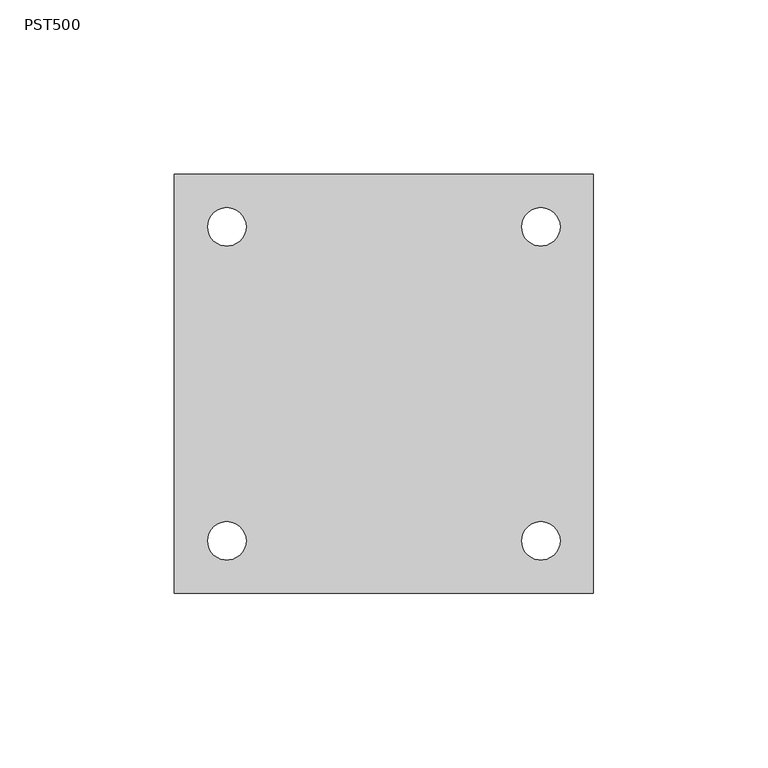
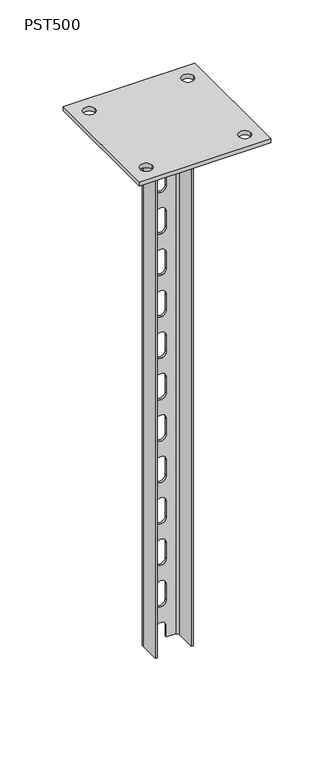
"""IFC4 building model written with IfcOpenShell, lengths in millimetres: proxy geometry, КМ Профиль_Стойка потолочная облегчённая PST : PST500."""

from ifc_helpers import new_model, si_unit, point, frame, frame_2d, origin, place, context, project, spatial, polyline, circle_curve, trimmed, segment, composite_curve, outline, extrude, source, transform, mapped, element, save
from ifc_brep_helpers import plane_surface, cylinder_surface, revolved_surface, advanced_brep


def pst500_9f6673d8(model_context):
    return source(origin(), model_context, "Body", "SolidModel", [
        advanced_brep(
        [(17.5, -11.5, -4.0), (17.5, 7.5, -4.0), (13.5, 11.5, -4.0), (-13.5, 11.5, -4.0), (-17.5, 7.5, -4.0), (-17.5, -11.5, -4.0), (-15.5, -11.5, -4.0), (-15.5, 7.5, -4.0), (-13.5, 9.5, -4.0), (13.5, 9.5, -4.0), (15.5, 7.5, -4.0), (15.5, -11.5, -4.0), (17.5, 7.5, -504.0), (17.5, -11.5, -504.0), (15.5, -11.5, -504.0), (15.5, 7.5, -504.0), (13.5, 9.5, -504.0), (5.0, 9.5, -504.0), (5.0, 11.5, -504.0), (13.5, 11.5, -504.0), (-17.5, 7.5, -504.0), (-13.5, 11.5, -504.0), (-5.0, 11.5, -504.0), (-5.0, 9.5, -504.0), (-13.5, 9.5, -504.0), (-15.5, 7.5, -504.0), (-15.5, -11.5, -504.0), (-17.5, -11.5, -504.0), (5.0, 11.5, -493.0), (-5.0, 11.5, -493.0), (-5.0, 11.5, -53.0), (-5.0, 11.5, -68.0), (5.0, 11.5, -68.0), (5.0, 11.5, -53.0), (-5.0, 11.5, -93.0), (-5.0, 11.5, -108.0), (5.0, 11.5, -108.0), (5.0, 11.5, -93.0), (-5.0, 11.5, -133.0), (-5.0, 11.5, -148.0), (5.0, 11.5, -148.0), (5.0, 11.5, -133.0), (-5.0, 11.5, -173.0), (-5.0, 11.5, -188.0), (5.0, 11.5, -188.0), (5.0, 11.5, -173.0), (-5.0, 11.5, -213.0), (-5.0, 11.5, -228.0), (5.0, 11.5, -228.0), (5.0, 11.5, -213.0), (-5.0, 11.5, -13.0), (-5.0, 11.5, -28.0), (5.0, 11.5, -28.0), (5.0, 11.5, -13.0), (-5.0, 11.5, -253.0), (-5.0, 11.5, -268.0), (5.0, 11.5, -268.0), (5.0, 11.5, -253.0), (-5.0, 11.5, -293.0), (-5.0, 11.5, -308.0), (5.0, 11.5, -308.0), (5.0, 11.5, -293.0), (-5.0, 11.5, -333.0), (-5.0, 11.5, -348.0), (5.0, 11.5, -348.0), (5.0, 11.5, -333.0), (-5.0, 11.5, -373.0), (-5.0, 11.5, -388.0), (5.0, 11.5, -388.0), (5.0, 11.5, -373.0), (-5.0, 11.5, -413.0), (-5.0, 11.5, -428.0), (5.0, 11.5, -428.0), (5.0, 11.5, -413.0), (-5.0, 11.5, -453.0), (-5.0, 11.5, -468.0), (5.0, 11.5, -468.0), (5.0, 11.5, -453.0), (-5.0, 9.5, -493.0), (5.0, 9.5, -493.0), (-5.0, 9.5, -68.0), (-5.0, 9.5, -53.0), (5.0, 9.5, -53.0), (5.0, 9.5, -68.0), (-5.0, 9.5, -108.0), (-5.0, 9.5, -93.0), (5.0, 9.5, -93.0), (5.0, 9.5, -108.0), (-5.0, 9.5, -148.0), (-5.0, 9.5, -133.0), (5.0, 9.5, -133.0), (5.0, 9.5, -148.0), (-5.0, 9.5, -188.0), (-5.0, 9.5, -173.0), (5.0, 9.5, -173.0), (5.0, 9.5, -188.0), (-5.0, 9.5, -228.0), (-5.0, 9.5, -213.0), (5.0, 9.5, -213.0), (5.0, 9.5, -228.0), (-5.0, 9.5, -28.0), (-5.0, 9.5, -13.0), (5.0, 9.5, -13.0), (5.0, 9.5, -28.0), (-5.0, 9.5, -268.0), (-5.0, 9.5, -253.0), (5.0, 9.5, -253.0), (5.0, 9.5, -268.0), (-5.0, 9.5, -308.0), (-5.0, 9.5, -293.0), (5.0, 9.5, -293.0), (5.0, 9.5, -308.0), (-5.0, 9.5, -348.0), (-5.0, 9.5, -333.0), (5.0, 9.5, -333.0), (5.0, 9.5, -348.0), (-5.0, 9.5, -388.0), (-5.0, 9.5, -373.0), (5.0, 9.5, -373.0), (5.0, 9.5, -388.0), (-5.0, 9.5, -428.0), (-5.0, 9.5, -413.0), (5.0, 9.5, -413.0), (5.0, 9.5, -428.0), (-5.0, 9.5, -468.0), (-5.0, 9.5, -453.0), (5.0, 9.5, -453.0), (5.0, 9.5, -468.0)],
        [
            (0, 1),
            (1, 2, circle_curve(frame((13.5, 7.5, -4.0), z_axis=(0.0, 0.0, 1.0), x_axis=(1.0, 0.0, 0.0)), 4.0)),
            (2, 3),
            (3, 4, circle_curve(frame((-13.5, 7.5, -4.0), z_axis=(0.0, 0.0, 1.0), x_axis=(1.0, 0.0, 0.0)), 4.0)),
            (4, 5),
            (5, 6),
            (6, 7),
            (7, 8, circle_curve(frame((-13.5, 7.5, -4.0), z_axis=(0.0, 0.0, -1.0), x_axis=(1.0, 0.0, 0.0)), 2.0)),
            (8, 9),
            (9, 10, circle_curve(frame((13.5, 7.5, -4.0), z_axis=(0.0, 0.0, -1.0), x_axis=(1.0, 0.0, 0.0)), 2.0)),
            (10, 11),
            (11, 0),
            (12, 13),
            (13, 14),
            (14, 15),
            (15, 16, circle_curve(frame((13.5, 7.5, -504.0), z_axis=(0.0, 0.0, 1.0), x_axis=(1.0, 0.0, 0.0)), 2.0)),
            (16, 17),
            (17, 18),
            (18, 19),
            (19, 12, circle_curve(frame((13.5, 7.5, -504.0), z_axis=(0.0, 0.0, -1.0), x_axis=(1.0, 0.0, 0.0)), 4.0)),
            (20, 21, circle_curve(frame((-13.5, 7.5, -504.0), z_axis=(0.0, 0.0, -1.0), x_axis=(1.0, 0.0, 0.0)), 4.0)),
            (21, 22),
            (22, 23),
            (23, 24),
            (24, 25, circle_curve(frame((-13.5, 7.5, -504.0), z_axis=(0.0, 0.0, 1.0), x_axis=(1.0, 0.0, 0.0)), 2.0)),
            (25, 26),
            (26, 27),
            (27, 20),
            (0, 13),
            (12, 1),
            (19, 2),
            (18, 28),
            (28, 29, circle_curve(frame((0.0, 11.5, -493.0), z_axis=(0.0, -1.0, 0.0), x_axis=(0.0, 0.0, -1.0)), 5.0)),
            (29, 22),
            (21, 3),
            (30, 31),
            (31, 32, circle_curve(frame((0.0, 11.5, -68.0), z_axis=(0.0, -1.0, 0.0), x_axis=(0.0, 0.0, -1.0)), 5.0)),
            (32, 33),
            (33, 30, circle_curve(frame((0.0, 11.5, -53.0), z_axis=(0.0, -1.0, 0.0), x_axis=(0.0, 0.0, -1.0)), 5.0)),
            (34, 35),
            (35, 36, circle_curve(frame((0.0, 11.5, -108.0), z_axis=(0.0, -1.0, 0.0), x_axis=(0.0, 0.0, -1.0)), 5.0)),
            (36, 37),
            (37, 34, circle_curve(frame((0.0, 11.5, -93.0), z_axis=(0.0, -1.0, 0.0), x_axis=(0.0, 0.0, -1.0)), 5.0)),
            (38, 39),
            (39, 40, circle_curve(frame((0.0, 11.5, -148.0), z_axis=(0.0, -1.0, 0.0), x_axis=(0.0, 0.0, -1.0)), 5.0)),
            (40, 41),
            (41, 38, circle_curve(frame((0.0, 11.5, -133.0), z_axis=(0.0, -1.0, 0.0), x_axis=(0.0, 0.0, -1.0)), 5.0)),
            (42, 43),
            (43, 44, circle_curve(frame((0.0, 11.5, -188.0), z_axis=(0.0, -1.0, 0.0), x_axis=(0.0, 0.0, -1.0)), 5.0)),
            (44, 45),
            (45, 42, circle_curve(frame((0.0, 11.5, -173.0), z_axis=(0.0, -1.0, 0.0), x_axis=(0.0, 0.0, -1.0)), 5.0)),
            (46, 47),
            (47, 48, circle_curve(frame((0.0, 11.5, -228.0), z_axis=(0.0, -1.0, 0.0), x_axis=(0.0, 0.0, -1.0)), 5.0)),
            (48, 49),
            (49, 46, circle_curve(frame((0.0, 11.5, -213.0), z_axis=(0.0, -1.0, 0.0), x_axis=(0.0, 0.0, -1.0)), 5.0)),
            (50, 51),
            (51, 52, circle_curve(frame((0.0, 11.5, -28.0), z_axis=(0.0, -1.0, 0.0), x_axis=(0.0, 0.0, -1.0)), 5.0)),
            (52, 53),
            (53, 50, circle_curve(frame((0.0, 11.5, -13.0), z_axis=(0.0, -1.0, 0.0), x_axis=(0.0, 0.0, -1.0)), 5.0)),
            (54, 55),
            (55, 56, circle_curve(frame((0.0, 11.5, -268.0), z_axis=(0.0, -1.0, 0.0), x_axis=(0.0, 0.0, -1.0)), 5.0)),
            (56, 57),
            (57, 54, circle_curve(frame((0.0, 11.5, -253.0), z_axis=(0.0, -1.0, 0.0), x_axis=(0.0, 0.0, -1.0)), 5.0)),
            (58, 59),
            (59, 60, circle_curve(frame((0.0, 11.5, -308.0), z_axis=(0.0, -1.0, 0.0), x_axis=(0.0, 0.0, -1.0)), 5.0)),
            (60, 61),
            (61, 58, circle_curve(frame((0.0, 11.5, -293.0), z_axis=(0.0, -1.0, 0.0), x_axis=(0.0, 0.0, -1.0)), 5.0)),
            (62, 63),
            (63, 64, circle_curve(frame((0.0, 11.5, -348.0), z_axis=(0.0, -1.0, 0.0), x_axis=(0.0, 0.0, -1.0)), 5.0)),
            (64, 65),
            (65, 62, circle_curve(frame((0.0, 11.5, -333.0), z_axis=(0.0, -1.0, 0.0), x_axis=(0.0, 0.0, -1.0)), 5.0)),
            (66, 67),
            (67, 68, circle_curve(frame((0.0, 11.5, -388.0), z_axis=(0.0, -1.0, 0.0), x_axis=(0.0, 0.0, -1.0)), 5.0)),
            (68, 69),
            (69, 66, circle_curve(frame((0.0, 11.5, -373.0), z_axis=(0.0, -1.0, 0.0), x_axis=(0.0, 0.0, -1.0)), 5.0)),
            (70, 71),
            (71, 72, circle_curve(frame((0.0, 11.5, -428.0), z_axis=(0.0, -1.0, 0.0), x_axis=(0.0, 0.0, -1.0)), 5.0)),
            (72, 73),
            (73, 70, circle_curve(frame((0.0, 11.5, -413.0), z_axis=(0.0, -1.0, 0.0), x_axis=(0.0, 0.0, -1.0)), 5.0)),
            (74, 75),
            (75, 76, circle_curve(frame((0.0, 11.5, -468.0), z_axis=(0.0, -1.0, 0.0), x_axis=(0.0, 0.0, -1.0)), 5.0)),
            (76, 77),
            (77, 74, circle_curve(frame((0.0, 11.5, -453.0), z_axis=(0.0, -1.0, 0.0), x_axis=(0.0, 0.0, -1.0)), 5.0)),
            (20, 4),
            (27, 5),
            (26, 6),
            (25, 7),
            (24, 8),
            (23, 78),
            (78, 79, circle_curve(frame((0.0, 9.5, -493.0), z_axis=(0.0, 1.0, 0.0), x_axis=(0.0, 0.0, -1.0)), 5.0)),
            (79, 17),
            (16, 9),
            (80, 81),
            (81, 82, circle_curve(frame((0.0, 9.5, -53.0), z_axis=(0.0, 1.0, 0.0), x_axis=(0.0, 0.0, -1.0)), 5.0)),
            (82, 83),
            (83, 80, circle_curve(frame((0.0, 9.5, -68.0), z_axis=(0.0, 1.0, 0.0), x_axis=(0.0, 0.0, -1.0)), 5.0)),
            (84, 85),
            (85, 86, circle_curve(frame((0.0, 9.5, -93.0), z_axis=(0.0, 1.0, 0.0), x_axis=(0.0, 0.0, -1.0)), 5.0)),
            (86, 87),
            (87, 84, circle_curve(frame((0.0, 9.5, -108.0), z_axis=(0.0, 1.0, 0.0), x_axis=(0.0, 0.0, -1.0)), 5.0)),
            (88, 89),
            (89, 90, circle_curve(frame((0.0, 9.5, -133.0), z_axis=(0.0, 1.0, 0.0), x_axis=(0.0, 0.0, -1.0)), 5.0)),
            (90, 91),
            (91, 88, circle_curve(frame((0.0, 9.5, -148.0), z_axis=(0.0, 1.0, 0.0), x_axis=(0.0, 0.0, -1.0)), 5.0)),
            (92, 93),
            (93, 94, circle_curve(frame((0.0, 9.5, -173.0), z_axis=(0.0, 1.0, 0.0), x_axis=(0.0, 0.0, -1.0)), 5.0)),
            (94, 95),
            (95, 92, circle_curve(frame((0.0, 9.5, -188.0), z_axis=(0.0, 1.0, 0.0), x_axis=(0.0, 0.0, -1.0)), 5.0)),
            (96, 97),
            (97, 98, circle_curve(frame((0.0, 9.5, -213.0), z_axis=(0.0, 1.0, 0.0), x_axis=(0.0, 0.0, -1.0)), 5.0)),
            (98, 99),
            (99, 96, circle_curve(frame((0.0, 9.5, -228.0), z_axis=(0.0, 1.0, 0.0), x_axis=(0.0, 0.0, -1.0)), 5.0)),
            (100, 101),
            (101, 102, circle_curve(frame((0.0, 9.5, -13.0), z_axis=(0.0, 1.0, 0.0), x_axis=(0.0, 0.0, -1.0)), 5.0)),
            (102, 103),
            (103, 100, circle_curve(frame((0.0, 9.5, -28.0), z_axis=(0.0, 1.0, 0.0), x_axis=(0.0, 0.0, -1.0)), 5.0)),
            (104, 105),
            (105, 106, circle_curve(frame((0.0, 9.5, -253.0), z_axis=(0.0, 1.0, 0.0), x_axis=(0.0, 0.0, -1.0)), 5.0)),
            (106, 107),
            (107, 104, circle_curve(frame((0.0, 9.5, -268.0), z_axis=(0.0, 1.0, 0.0), x_axis=(0.0, 0.0, -1.0)), 5.0)),
            (108, 109),
            (109, 110, circle_curve(frame((0.0, 9.5, -293.0), z_axis=(0.0, 1.0, 0.0), x_axis=(0.0, 0.0, -1.0)), 5.0)),
            (110, 111),
            (111, 108, circle_curve(frame((0.0, 9.5, -308.0), z_axis=(0.0, 1.0, 0.0), x_axis=(0.0, 0.0, -1.0)), 5.0)),
            (112, 113),
            (113, 114, circle_curve(frame((0.0, 9.5, -333.0), z_axis=(0.0, 1.0, 0.0), x_axis=(0.0, 0.0, -1.0)), 5.0)),
            (114, 115),
            (115, 112, circle_curve(frame((0.0, 9.5, -348.0), z_axis=(0.0, 1.0, 0.0), x_axis=(0.0, 0.0, -1.0)), 5.0)),
            (116, 117),
            (117, 118, circle_curve(frame((0.0, 9.5, -373.0), z_axis=(0.0, 1.0, 0.0), x_axis=(0.0, 0.0, -1.0)), 5.0)),
            (118, 119),
            (119, 116, circle_curve(frame((0.0, 9.5, -388.0), z_axis=(0.0, 1.0, 0.0), x_axis=(0.0, 0.0, -1.0)), 5.0)),
            (120, 121),
            (121, 122, circle_curve(frame((0.0, 9.5, -413.0), z_axis=(0.0, 1.0, 0.0), x_axis=(0.0, 0.0, -1.0)), 5.0)),
            (122, 123),
            (123, 120, circle_curve(frame((0.0, 9.5, -428.0), z_axis=(0.0, 1.0, 0.0), x_axis=(0.0, 0.0, -1.0)), 5.0)),
            (124, 125),
            (125, 126, circle_curve(frame((0.0, 9.5, -453.0), z_axis=(0.0, 1.0, 0.0), x_axis=(0.0, 0.0, -1.0)), 5.0)),
            (126, 127),
            (127, 124, circle_curve(frame((0.0, 9.5, -468.0), z_axis=(0.0, 1.0, 0.0), x_axis=(0.0, 0.0, -1.0)), 5.0)),
            (15, 10),
            (14, 11),
            (30, 81),
            (80, 31),
            (33, 82),
            (32, 83),
            (34, 85),
            (84, 35),
            (37, 86),
            (36, 87),
            (38, 89),
            (88, 39),
            (41, 90),
            (40, 91),
            (42, 93),
            (92, 43),
            (45, 94),
            (44, 95),
            (46, 97),
            (96, 47),
            (49, 98),
            (48, 99),
            (50, 101),
            (100, 51),
            (53, 102),
            (52, 103),
            (54, 105),
            (104, 55),
            (57, 106),
            (56, 107),
            (58, 109),
            (108, 59),
            (61, 110),
            (60, 111),
            (62, 113),
            (112, 63),
            (65, 114),
            (64, 115),
            (66, 117),
            (116, 67),
            (69, 118),
            (68, 119),
            (70, 121),
            (120, 71),
            (73, 122),
            (72, 123),
            (74, 125),
            (124, 75),
            (77, 126),
            (76, 127),
            (29, 78),
            (28, 79),
        ],
        [
            plane_surface(frame((17.5, 70.8587358, -4.0), z_axis=(0.0, 0.0, 1.0), x_axis=(0.0, 1.0, 0.0))),
            plane_surface(frame((17.5, 70.8587358, -504.0), z_axis=(0.0, 0.0, -1.0), x_axis=(0.0, -1.0, 0.0))),
            plane_surface(frame((17.5, -11.5, -4.0), z_axis=(1.0, 0.0, 0.0), x_axis=(0.0, 0.0, -1.0))),
            cylinder_surface(frame((13.5, 7.5, -504.0), z_axis=(0.0, 0.0, 1.0), x_axis=(1.0, 0.0, 0.0)), 4.0),
            plane_surface(frame((13.5, 11.5, -4.0), z_axis=(0.0, 1.0, 0.0), x_axis=(0.0, 0.0, -1.0))),
            cylinder_surface(frame((-13.5, 7.5, -504.0), z_axis=(0.0, 0.0, 1.0), x_axis=(1.0, 0.0, 0.0)), 4.0),
            plane_surface(frame((-17.5, 7.5, -4.0), z_axis=(-1.0, 0.0, 0.0), x_axis=(0.0, 0.0, -1.0))),
            plane_surface(frame((-17.5, -11.5, -4.0), z_axis=(0.0, -1.0, 0.0), x_axis=(0.0, 0.0, -1.0))),
            plane_surface(frame((-15.5, -11.5, -4.0), z_axis=(1.0, 0.0, 0.0), x_axis=(0.0, 0.0, -1.0))),
            revolved_surface(polyline([(-11.5, 7.5, -504.0), (-11.5, 7.5, -4.0)]), (-13.5, 7.5, -504.0), (0.0, 0.0, -1.0)),
            plane_surface(frame((-13.5, 9.5, -4.0), z_axis=(0.0, -1.0, 0.0), x_axis=(0.0, 0.0, -1.0))),
            revolved_surface(polyline([(15.5, 7.5, -504.0), (15.5, 7.5, -4.0)]), (13.5, 7.5, -504.0), (0.0, 0.0, -1.0)),
            plane_surface(frame((15.5, 7.5, -4.0), z_axis=(-1.0, 0.0, 0.0), x_axis=(0.0, 0.0, -1.0))),
            plane_surface(frame((15.5, -11.5, -4.0), z_axis=(0.0, -1.0, 0.0), x_axis=(0.0, 0.0, -1.0))),
            plane_surface(frame((-5.0, 11.5, -68.0), z_axis=(1.0, 0.0, 0.0), x_axis=(0.0, -1.0, 0.0))),
            revolved_surface(polyline([(0.0, 11.5, -58.0), (0.0, 9.5, -58.0)]), (0.0, 9.5, -53.0), (0.0, 1.0, 0.0)),
            plane_surface(frame((5.0, 11.5, -53.0), z_axis=(-1.0, 0.0, 0.0), x_axis=(0.0, -1.0, 0.0))),
            revolved_surface(polyline([(0.0, 11.5, -73.0), (0.0, 9.5, -73.0)]), (0.0, 9.5, -68.0), (0.0, 1.0, 0.0)),
            plane_surface(frame((-5.0, 11.5, -108.0), z_axis=(1.0, 0.0, 0.0), x_axis=(0.0, -1.0, 0.0))),
            revolved_surface(polyline([(0.0, 11.5, -98.0), (0.0, 9.5, -98.0)]), (0.0, 9.5, -93.0), (0.0, 1.0, 0.0)),
            plane_surface(frame((5.0, 11.5, -93.0), z_axis=(-1.0, 0.0, 0.0), x_axis=(0.0, -1.0, 0.0))),
            revolved_surface(polyline([(0.0, 11.5, -113.0), (0.0, 9.5, -113.0)]), (0.0, 9.5, -108.0), (0.0, 1.0, 0.0)),
            plane_surface(frame((-5.0, 11.5, -148.0), z_axis=(1.0, 0.0, 0.0), x_axis=(0.0, -1.0, 0.0))),
            revolved_surface(polyline([(0.0, 11.5, -138.0), (0.0, 9.5, -138.0)]), (0.0, 9.5, -133.0), (0.0, 1.0, 0.0)),
            plane_surface(frame((5.0, 11.5, -133.0), z_axis=(-1.0, 0.0, 0.0), x_axis=(0.0, -1.0, 0.0))),
            revolved_surface(polyline([(0.0, 11.5, -153.0), (0.0, 9.5, -153.0)]), (0.0, 9.5, -148.0), (0.0, 1.0, 0.0)),
            plane_surface(frame((-5.0, 11.5, -188.0), z_axis=(1.0, 0.0, 0.0), x_axis=(0.0, -1.0, 0.0))),
            revolved_surface(polyline([(0.0, 11.5, -178.0), (0.0, 9.5, -178.0)]), (0.0, 9.5, -173.0), (0.0, 1.0, 0.0)),
            plane_surface(frame((5.0, 11.5, -173.0), z_axis=(-1.0, 0.0, 0.0), x_axis=(0.0, -1.0, 0.0))),
            revolved_surface(polyline([(0.0, 11.5, -193.0), (0.0, 9.5, -193.0)]), (0.0, 9.5, -188.0), (0.0, 1.0, 0.0)),
            plane_surface(frame((-5.0, 11.5, -228.0), z_axis=(1.0, 0.0, 0.0), x_axis=(0.0, -1.0, 0.0))),
            revolved_surface(polyline([(0.0, 11.5, -218.0), (0.0, 9.5, -218.0)]), (0.0, 9.5, -213.0), (0.0, 1.0, 0.0)),
            plane_surface(frame((5.0, 11.5, -213.0), z_axis=(-1.0, 0.0, 0.0), x_axis=(0.0, -1.0, 0.0))),
            revolved_surface(polyline([(0.0, 11.5, -233.0), (0.0, 9.5, -233.0)]), (0.0, 9.5, -228.0), (0.0, 1.0, 0.0)),
            plane_surface(frame((-5.0, 11.5, -28.0), z_axis=(1.0, 0.0, 0.0), x_axis=(0.0, -1.0, 0.0))),
            revolved_surface(polyline([(0.0, 11.5, -18.0), (0.0, 9.5, -18.0)]), (0.0, 9.5, -13.0), (0.0, 1.0, 0.0)),
            plane_surface(frame((5.0, 11.5, -13.0), z_axis=(-1.0, 0.0, 0.0), x_axis=(0.0, -1.0, 0.0))),
            revolved_surface(polyline([(0.0, 11.5, -33.0), (0.0, 9.5, -33.0)]), (0.0, 9.5, -28.0), (0.0, 1.0, 0.0)),
            plane_surface(frame((-5.0, 11.5, -268.0), z_axis=(1.0, 0.0, 0.0), x_axis=(0.0, -1.0, 0.0))),
            revolved_surface(polyline([(0.0, 11.5, -258.0), (0.0, 9.5, -258.0)]), (0.0, 9.5, -253.0), (0.0, 1.0, 0.0)),
            plane_surface(frame((5.0, 11.5, -253.0), z_axis=(-1.0, 0.0, 0.0), x_axis=(0.0, -1.0, 0.0))),
            revolved_surface(polyline([(0.0, 11.5, -273.0), (0.0, 9.5, -273.0)]), (0.0, 9.5, -268.0), (0.0, 1.0, 0.0)),
            plane_surface(frame((-5.0, 11.5, -308.0), z_axis=(1.0, 0.0, 0.0), x_axis=(0.0, -1.0, 0.0))),
            revolved_surface(polyline([(0.0, 11.5, -298.0), (0.0, 9.5, -298.0)]), (0.0, 9.5, -293.0), (0.0, 1.0, 0.0)),
            plane_surface(frame((5.0, 11.5, -293.0), z_axis=(-1.0, 0.0, 0.0), x_axis=(0.0, -1.0, 0.0))),
            revolved_surface(polyline([(0.0, 11.5, -313.0), (0.0, 9.5, -313.0)]), (0.0, 9.5, -308.0), (0.0, 1.0, 0.0)),
            plane_surface(frame((-5.0, 11.5, -348.0), z_axis=(1.0, 0.0, 0.0), x_axis=(0.0, -1.0, 0.0))),
            revolved_surface(polyline([(0.0, 11.5, -338.0), (0.0, 9.5, -338.0)]), (0.0, 9.5, -333.0), (0.0, 1.0, 0.0)),
            plane_surface(frame((5.0, 11.5, -333.0), z_axis=(-1.0, 0.0, 0.0), x_axis=(0.0, -1.0, 0.0))),
            revolved_surface(polyline([(0.0, 11.5, -353.0), (0.0, 9.5, -353.0)]), (0.0, 9.5, -348.0), (0.0, 1.0, 0.0)),
            plane_surface(frame((-5.0, 11.5, -388.0), z_axis=(1.0, 0.0, 0.0), x_axis=(0.0, -1.0, 0.0))),
            revolved_surface(polyline([(0.0, 11.5, -378.0), (0.0, 9.5, -378.0)]), (0.0, 9.5, -373.0), (0.0, 1.0, 0.0)),
            plane_surface(frame((5.0, 11.5, -373.0), z_axis=(-1.0, 0.0, 0.0), x_axis=(0.0, -1.0, 0.0))),
            revolved_surface(polyline([(0.0, 11.5, -393.0), (0.0, 9.5, -393.0)]), (0.0, 9.5, -388.0), (0.0, 1.0, 0.0)),
            plane_surface(frame((-5.0, 11.5, -428.0), z_axis=(1.0, 0.0, 0.0), x_axis=(0.0, -1.0, 0.0))),
            revolved_surface(polyline([(0.0, 11.5, -418.0), (0.0, 9.5, -418.0)]), (0.0, 9.5, -413.0), (0.0, 1.0, 0.0)),
            plane_surface(frame((5.0, 11.5, -413.0), z_axis=(-1.0, 0.0, 0.0), x_axis=(0.0, -1.0, 0.0))),
            revolved_surface(polyline([(0.0, 11.5, -433.0), (0.0, 9.5, -433.0)]), (0.0, 9.5, -428.0), (0.0, 1.0, 0.0)),
            plane_surface(frame((-5.0, 11.5, -468.0), z_axis=(1.0, 0.0, 0.0), x_axis=(0.0, -1.0, 0.0))),
            revolved_surface(polyline([(0.0, 11.5, -458.0), (0.0, 9.5, -458.0)]), (0.0, 9.5, -453.0), (0.0, 1.0, 0.0)),
            plane_surface(frame((5.0, 11.5, -453.0), z_axis=(-1.0, 0.0, 0.0), x_axis=(0.0, -1.0, 0.0))),
            revolved_surface(polyline([(0.0, 11.5, -473.0), (0.0, 9.5, -473.0)]), (0.0, 9.5, -468.0), (0.0, 1.0, 0.0)),
            plane_surface(frame((-5.0, 11.5, -508.0), z_axis=(1.0, 0.0, 0.0), x_axis=(0.0, -1.0, 0.0))),
            revolved_surface(polyline([(0.0, 11.5, -498.0), (0.0, 9.5, -498.0)]), (0.0, 9.5, -493.0), (0.0, 1.0, 0.0)),
            plane_surface(frame((5.0, 11.5, -493.0), z_axis=(-1.0, 0.0, 0.0), x_axis=(0.0, -1.0, 0.0))),
        ],
        [
            (0, [[1, 2, 3, 4, 5, 6, 7, 8, 9, 10, 11, 12]]),
            (1, [[13, 14, 15, 16, 17, 18, 19, 20]]),
            (1, [[21, 22, 23, 24, 25, 26, 27, 28]]),
            (2, [[-1, 29, -13, 30]]),
            (3, [[-2, -30, -20, 31]]),
            (4, [[-3, -31, -19, 32, 33, 34, -22, 35], [36, 37, 38, 39], [40, 41, 42, 43], [44, 45, 46, 47], [48, 49, 50, 51], [52, 53, 54, 55], [56, 57, 58, 59], [60, 61, 62, 63], [64, 65, 66, 67], [68, 69, 70, 71], [72, 73, 74, 75], [76, 77, 78, 79], [80, 81, 82, 83]]),
            (5, [[-4, -35, -21, 84]]),
            (6, [[-5, -84, -28, 85]]),
            (7, [[-6, -85, -27, 86]]),
            (8, [[-7, -86, -26, 87]]),
            (9, [[-8, -87, -25, 88]]),
            (10, [[-9, -88, -24, 89, 90, 91, -17, 92], [93, 94, 95, 96], [97, 98, 99, 100], [101, 102, 103, 104], [105, 106, 107, 108], [109, 110, 111, 112], [113, 114, 115, 116], [117, 118, 119, 120], [121, 122, 123, 124], [125, 126, 127, 128], [129, 130, 131, 132], [133, 134, 135, 136], [137, 138, 139, 140]]),
            (11, [[-10, -92, -16, 141]]),
            (12, [[-11, -141, -15, 142]]),
            (13, [[-12, -142, -14, -29]]),
            (14, [[143, -93, 144, -36]]),
            (15, [[-143, -39, 145, -94]]),
            (16, [[-145, -38, 146, -95]]),
            (17, [[-144, -96, -146, -37]]),
            (18, [[147, -97, 148, -40]]),
            (19, [[-147, -43, 149, -98]]),
            (20, [[-149, -42, 150, -99]]),
            (21, [[-148, -100, -150, -41]]),
            (22, [[151, -101, 152, -44]]),
            (23, [[-151, -47, 153, -102]]),
            (24, [[-153, -46, 154, -103]]),
            (25, [[-152, -104, -154, -45]]),
            (26, [[155, -105, 156, -48]]),
            (27, [[-155, -51, 157, -106]]),
            (28, [[-157, -50, 158, -107]]),
            (29, [[-156, -108, -158, -49]]),
            (30, [[159, -109, 160, -52]]),
            (31, [[-159, -55, 161, -110]]),
            (32, [[-161, -54, 162, -111]]),
            (33, [[-160, -112, -162, -53]]),
            (34, [[163, -113, 164, -56]]),
            (35, [[-163, -59, 165, -114]]),
            (36, [[-165, -58, 166, -115]]),
            (37, [[-164, -116, -166, -57]]),
            (38, [[167, -117, 168, -60]]),
            (39, [[-167, -63, 169, -118]]),
            (40, [[-169, -62, 170, -119]]),
            (41, [[-168, -120, -170, -61]]),
            (42, [[171, -121, 172, -64]]),
            (43, [[-171, -67, 173, -122]]),
            (44, [[-173, -66, 174, -123]]),
            (45, [[-172, -124, -174, -65]]),
            (46, [[175, -125, 176, -68]]),
            (47, [[-175, -71, 177, -126]]),
            (48, [[-177, -70, 178, -127]]),
            (49, [[-176, -128, -178, -69]]),
            (50, [[179, -129, 180, -72]]),
            (51, [[-179, -75, 181, -130]]),
            (52, [[-181, -74, 182, -131]]),
            (53, [[-180, -132, -182, -73]]),
            (54, [[183, -133, 184, -76]]),
            (55, [[-183, -79, 185, -134]]),
            (56, [[-185, -78, 186, -135]]),
            (57, [[-184, -136, -186, -77]]),
            (58, [[187, -137, 188, -80]]),
            (59, [[-187, -83, 189, -138]]),
            (60, [[-189, -82, 190, -139]]),
            (61, [[-188, -140, -190, -81]]),
            (62, [[191, -89, -23, -34]]),
            (63, [[-191, -33, 192, -90]]),
            (64, [[-192, -32, -18, -91]]),
        ],
    ),
        extrude(outline(polyline([(-60.0, 60.0), (60.0, 60.0), (60.0, -60.0), (-60.0, -60.0), (-60.0, 60.0)]), holes=[composite_curve([segment(trimmed(circle_curve(frame_2d((-45.0, 45.0)), 5.5), [point((-50.5, 45.0))], [point((-39.5, 45.0))], True, "CARTESIAN"), True, "CONTINUOUS"), segment(trimmed(circle_curve(frame_2d((-45.0, 45.0)), 5.5), [point((-39.5, 45.0))], [point((-50.5, 45.0))], True, "CARTESIAN"), True, "CONTINUOUS")], self_intersect=False), composite_curve([segment(trimmed(circle_curve(frame_2d((45.0, 45.0)), 5.5), [point((39.5, 45.0))], [point((50.5, 45.0))], True, "CARTESIAN"), True, "CONTINUOUS"), segment(trimmed(circle_curve(frame_2d((45.0, 45.0)), 5.5), [point((50.5, 45.0))], [point((39.5, 45.0))], True, "CARTESIAN"), True, "CONTINUOUS")], self_intersect=False), composite_curve([segment(trimmed(circle_curve(frame_2d((45.0, -45.0)), 5.5), [point((39.5, -45.0))], [point((50.5, -45.0))], True, "CARTESIAN"), True, "CONTINUOUS"), segment(trimmed(circle_curve(frame_2d((45.0, -45.0)), 5.5), [point((50.5, -45.0))], [point((39.5, -45.0))], True, "CARTESIAN"), True, "CONTINUOUS")], self_intersect=False), composite_curve([segment(trimmed(circle_curve(frame_2d((-45.0, -45.0)), 5.5), [point((-50.5, -45.0))], [point((-39.5, -45.0))], True, "CARTESIAN"), True, "CONTINUOUS"), segment(trimmed(circle_curve(frame_2d((-45.0, -45.0)), 5.5), [point((-39.5, -45.0))], [point((-50.5, -45.0))], True, "CARTESIAN"), True, "CONTINUOUS")], self_intersect=False)]), frame((0.0, 0.0, -4.0), z_axis=(0.0, 0.0, 1.0), x_axis=(1.0, 0.0, 0.0)), (0.0, 0.0, 1.0), 4.0),
    ])


if __name__ == "__main__":
    model = new_model("IFC4")
    model_context = context("Model", 3, world=origin())
    ifc_project = project(units=[si_unit("LENGTHUNIT", "METRE", prefix="MILLI")], contexts=[model_context])
    site = spatial("IfcSite", under=ifc_project)
    building = spatial("IfcBuilding", under=site)
    placement = place(None, origin())
    pst500_shape = pst500_9f6673d8(model_context)
    element("IfcBuildingElementProxy", 1, Name="КМ Профиль_Стойка потолочная облегчённая PST : PST500", ObjectType="КМ Профиль_Стойка потолочная облегчённая PST : PST500", at=placement, inside=building, context=model_context, shape_type="MappedRepresentation", body=[
        mapped(pst500_shape, transform((0.0, 0.0, 0.0), x_axis=(1.0, 0.0, 0.0), y_axis=(0.0, 1.0, 0.0), z_axis=(0.0, 0.0, 1.0))),
    ])
    save(model, "model.ifc")
